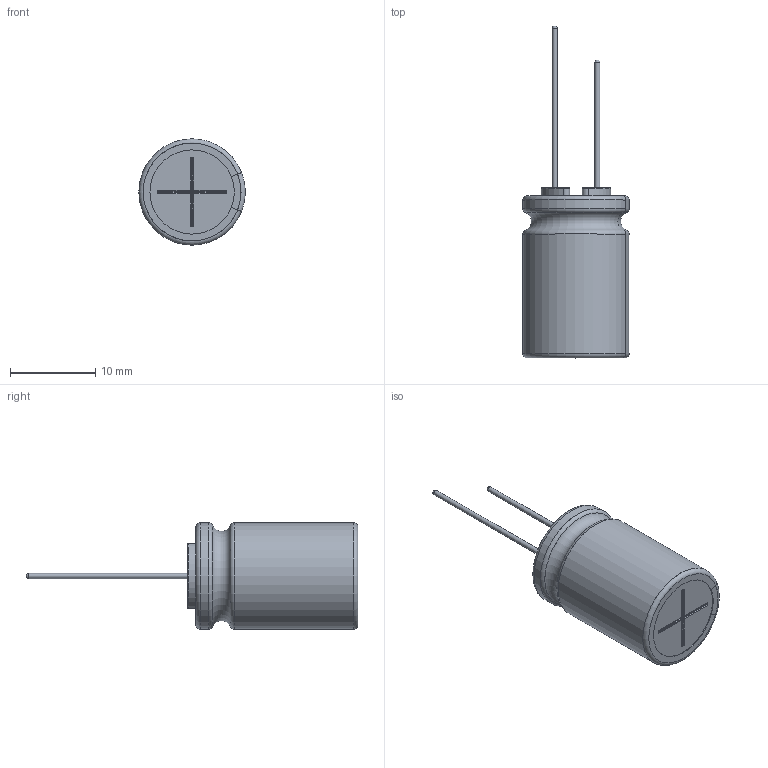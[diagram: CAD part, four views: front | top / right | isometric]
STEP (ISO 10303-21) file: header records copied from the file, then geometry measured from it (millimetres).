
FILE_DESCRIPTION(/* description */ (''),/* implementation_level */ '2;1');
FILE_NAME(/* name */ '12.5x20_Lead.stp',/* time_stamp */ '2017-09-05T14:22:21+09:00',/* author */ (''),/* organization */ (''),/* preprocessor_version */ 'ST-DEVELOPER v16',/* originating_system */ 'SIEMENS PLM Software NX 11.0',/* authorisation */ '');
FILE_SCHEMA (('AUTOMOTIVE_DESIGN { 1 0 10303 214 3 1 1 1 }'));
Length unit declared in the file: millimetre
Products named in the file (1): 12.5x20_Lead_0
Bounding box: 12.48 x 39 x 12.5 mm (x, y, z)
Volume: 2291.1 mm3; surface area: 2758.1 mm2
Topology: 3 solids, 3 shells, 132 faces, 326 edges, 203 vertices
Faces by surface type: cylinder 50, torus 35, plane 33, sphere 6, bspline 6, extrusion 2
Full cylindrical faces by diameter (mm): 0.6 x2, 12.3 x2
Entity records: 5211 total; most frequent: CARTESIAN_POINT 1361, DIRECTION 748, ORIENTED_EDGE 624, EDGE_CURVE 312, AXIS2_PLACEMENT_3D 311, VERTEX_POINT 200, CIRCLE 174, EDGE_LOOP 146
